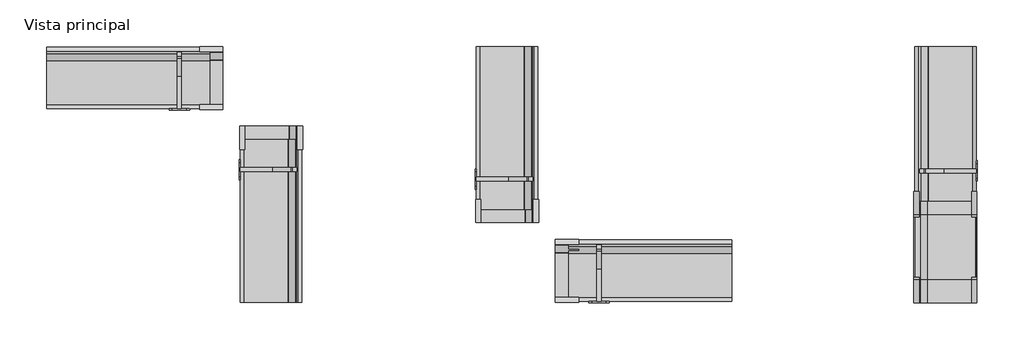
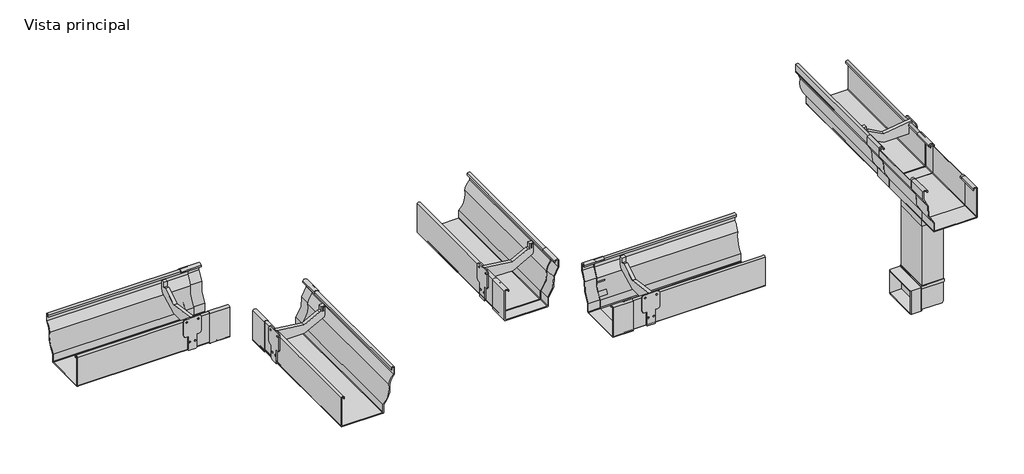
# One storey, incomplete: 19 pipe fittings.
"""IFC4 building model written with IfcOpenShell, lengths in millimetres."""

from ifc_helpers import new_model, si_unit, origin, place, context, project, spatial, transform, mapped, element, save
from components import var_93b2cf93, var_eb0013ed, var_02fd32d3, var_97ccc338, var_51f41bf2, var_6b6f87d7, var_0e961320

model = new_model("IFC4")

# Units and contexts
model_context = context("Model", 3, world=origin())
ifc_project = project(units=[si_unit("LENGTHUNIT", "METRE", prefix="MILLI")], contexts=[model_context])

# Site, building, storey
site = spatial("IfcSite", under=ifc_project)
building = spatial("IfcBuilding", under=site)
storey = spatial("IfcBuildingStorey", under=building, Name="Vista principal", Elevation=0.0)

# Pipe fittings
placement = place(None, origin())
var_shape = var_93b2cf93(model_context)
element("IfcPipeFitting", 1, ObjectType="AmancoWavin_Unionesdetubería_CanalesyBajantesZ_NoUsarSoporteInternoCanoa : Var.", at=placement, inside=storey, context=model_context, shape_type="MappedRepresentation", body=[
    mapped(var_shape, transform((3848.3762965, 1646.2645852, 0.0), x_axis=(-1.0, 0.0, 0.0), y_axis=(0.0, -1.0, 0.0), z_axis=(0.0, 0.0, 1.0))),
])
element("IfcPipeFitting", 2, ObjectType="AmancoWavin_Unionesdetubería_CanalesyBajantesZ_NoUsarSoporteInternoCanoa(Nested) : Var.", at=placement, inside=storey, context=model_context, shape_type="MappedRepresentation", body=[
    mapped(var_shape, transform((1892.5817964, 1799.1111474, 0.0), x_axis=(0.0, 1.0, 0.0), y_axis=(-1.0, 0.0, 0.0), z_axis=(0.0, 0.0, 1.0))),
])
element("IfcPipeFitting", 3, ObjectType="AmancoWavin_Unionesdetubería_CanalesyBajantesZ_NoUsarSoporteInternoCanoa(Nested) : Var.", at=placement, inside=storey, context=model_context, shape_type="MappedRepresentation", body=[
    mapped(var_shape, transform((2042.3318439, 1649.3648043, 0.0), x_axis=(1.0, 0.0, 0.0), y_axis=(0.0, 1.0, 0.0), z_axis=(0.0, 0.0, 1.0))),
])
element("IfcPipeFitting", 4, ObjectType="AmancoWavin_Unionesdetubería_CanalesyBajantesZ_NoUsarSoporteInternoCanoa(Nested) : Var.", at=placement, inside=storey, context=model_context, shape_type="MappedRepresentation", body=[
    mapped(var_shape, transform((2621.6292281, 1626.2645852, 0.0), x_axis=(1.0, 0.0, 0.0), y_axis=(0.0, 1.0, 0.0), z_axis=(0.0, 0.0, 1.0))),
])
element("IfcPipeFitting", 5, ObjectType="AmancoWavin_Unionesdetubería_CanalesyBajantesZ_NoUsarSoporteInternoCanoa(Nested) : Var.", at=placement, inside=storey, context=model_context, shape_type="MappedRepresentation", body=[
    mapped(var_shape, transform((2922.580947, 1325.3182421, 0.0), x_axis=(0.0, 1.0, 0.0), y_axis=(-1.0, 0.0, 0.0), z_axis=(0.0, 0.0, 1.0))),
])
var_2_shape = var_eb0013ed(model_context)
element("IfcPipeFitting", 6, ObjectType="AmancoWavin_Unionesdetubería_CanalesyBajantesZ_NoUsarUniónColonial(Nested) : Var.", at=placement, inside=storey, context=model_context, shape_type="MappedRepresentation", body=[
    mapped(var_2_shape, transform((2117.9264681, 1699.3648043, 0.0), x_axis=(1.0, 0.0, 0.0), y_axis=(0.0, 1.0, 0.0), z_axis=(0.0, 0.0, 1.0))),
])
element("IfcPipeFitting", 7, ObjectType="AmancoWavin_Unionesdetubería_CanalesyBajantesZ_NoUsarUniónColonial(Nested) : Var.", at=placement, inside=storey, context=model_context, shape_type="MappedRepresentation", body=[
    mapped(var_2_shape, transform((1999.3817964, 1874.7111474, 0.0), x_axis=(0.0, 1.0, 0.0), y_axis=(-1.0, 0.0, 0.0), z_axis=(0.0, 0.0, 1.0))),
])
element("IfcPipeFitting", 8, ObjectType="AmancoWavin_Unionesdetubería_CanalesyBajantesZ_NoUsarUniónColonial(Nested) : Var.", at=placement, inside=storey, context=model_context, shape_type="MappedRepresentation", body=[
    mapped(var_2_shape, transform((2872.580947, 1400.9182421, 0.0), x_axis=(0.0, 1.0, 0.0), y_axis=(-1.0, 0.0, 0.0), z_axis=(0.0, 0.0, 1.0))),
])
element("IfcPipeFitting", 9, ObjectType="AmancoWavin_Unionesdetubería_CanalesyBajantesZ_NoUsarUniónColonial(Nested) : Var.", at=placement, inside=storey, context=model_context, shape_type="MappedRepresentation", body=[
    mapped(var_2_shape, transform((2697.2292281, 1519.4645852, 0.0), x_axis=(1.0, 0.0, 0.0), y_axis=(0.0, 1.0, 0.0), z_axis=(0.0, 0.0, 1.0))),
])
element("IfcPipeFitting", 10, ObjectType="AmancoWavin_Unionesdetubería_CanalesyBajantesZ_NoUsarUniónColonial : Var.", at=placement, inside=storey, context=model_context, shape_type="MappedRepresentation", body=[
    mapped(var_2_shape, transform((3772.7762965, 1378.4645852, 0.0), x_axis=(-1.0, 0.0, 0.0), y_axis=(0.0, -1.0, 0.0), z_axis=(0.0, 0.0, 1.0))),
])
element("IfcPipeFitting", 11, ObjectType="AmancoWavin_Unionesdetubería_CanalesyBajantesZ_NoUsarUniónColonial : Var.", at=placement, inside=storey, context=model_context, shape_type="MappedRepresentation", body=[
    mapped(var_2_shape, transform((3772.7762965, 1596.2645852, 0.0), x_axis=(-1.0, 0.0, 0.0), y_axis=(0.0, -1.0, 0.0), z_axis=(0.0, 0.0, 1.0))),
])
var_3_shape = var_02fd32d3(model_context)
element("IfcPipeFitting", 12, ObjectType="AmancoWavin_Unionesdetubería_CanalesyBajantesZ_NoUsarBoquillaRectangularColonial : Var.", at=placement, inside=storey, context=model_context, shape_type="MappedRepresentation", body=[
    mapped(var_3_shape, transform((3772.7762965, 1563.4645852, 0.0), x_axis=(-1.0, 0.0, 0.0), y_axis=(0.0, -1.0, 0.0), z_axis=(0.0, 0.0, 1.0))),
])
var_4_shape = var_97ccc338(model_context)
element("IfcPipeFitting", 13, ObjectType="AmancoWavin_Unionesdetubería_CanalesyBajantes_CodoRectangular : Var.", at=placement, inside=storey, context=model_context, shape_type="MappedRepresentation", body=[
    mapped(var_4_shape, transform((3772.7762965, 1458.9645852, -260.46), x_axis=(1.0, 0.0, 0.0), y_axis=(0.0, 1.0, 0.0), z_axis=(0.0, 0.0, 1.0))),
])
var_5_shape = var_51f41bf2(model_context)
element("IfcPipeFitting", 14, ObjectType="AmancoWavin_Unionesdetubería_CanalesyBajantesZ_NoUsarCanoaColonial : Var.", at=placement, inside=storey, context=model_context, shape_type="MappedRepresentation", body=[
    mapped(var_5_shape, transform((2117.9264681, 1323.3611474, 0.0), x_axis=(1.0, 0.0, 0.0), y_axis=(0.0, 1.0, 0.0), z_axis=(0.0, 0.0, 1.0))),
])
element("IfcPipeFitting", 15, ObjectType="AmancoWavin_Unionesdetubería_CanalesyBajantesZ_NoUsarCanoaColonial : Var.", at=placement, inside=storey, context=model_context, shape_type="MappedRepresentation", body=[
    mapped(var_5_shape, transform((1966.5817964, 1874.7111474, 0.0), x_axis=(0.0, 1.0, 0.0), y_axis=(-1.0, 0.0, 0.0), z_axis=(0.0, 0.0, 1.0))),
])
element("IfcPipeFitting", 16, ObjectType="AmancoWavin_Unionesdetubería_CanalesyBajantesZ_NoUsarCanoaColonial : Var.", at=placement, inside=storey, context=model_context, shape_type="MappedRepresentation", body=[
    mapped(var_5_shape, transform((2697.2292281, 1552.2645852, 0.0), x_axis=(1.0, 0.0, 0.0), y_axis=(0.0, 1.0, 0.0), z_axis=(0.0, 0.0, 1.0))),
])
element("IfcPipeFitting", 17, ObjectType="AmancoWavin_Unionesdetubería_CanalesyBajantesZ_NoUsarCanoaColonial : Var.", at=placement, inside=storey, context=model_context, shape_type="MappedRepresentation", body=[
    mapped(var_5_shape, transform((3248.580947, 1400.9182421, 0.0), x_axis=(0.0, 1.0, 0.0), y_axis=(-1.0, 0.0, 0.0), z_axis=(0.0, 0.0, 1.0))),
])
var_6_shape = var_6b6f87d7(model_context)
element("IfcPipeFitting", 18, ObjectType="AmancoWavin_Unionesdetubería_CanalesyBajantesZ_NoUsarCanoaColonial : Var.", at=placement, inside=storey, context=model_context, shape_type="MappedRepresentation", body=[
    mapped(var_6_shape, transform((3772.7762965, 1952.2645852, 0.0), x_axis=(-1.0, 0.0, 0.0), y_axis=(0.0, -1.0, 0.0), z_axis=(0.0, 0.0, 1.0))),
])
var_7_shape = var_0e961320(model_context)
element("IfcPipeFitting", 19, ObjectType="AmancoWavin_Unionesdetubería_CanalesyBajantesZ_NoUsarBajanteRectangular : Var.", at=placement, inside=storey, context=model_context, shape_type="MappedRepresentation", body=[
    mapped(var_7_shape, transform((3772.7762965, 1458.9645852, -22.0), x_axis=(0.0, -1.0, 0.0), y_axis=(1.0, 0.0, 0.0), z_axis=(0.0, 0.0, 1.0))),
])

save(model, "model.ifc")
